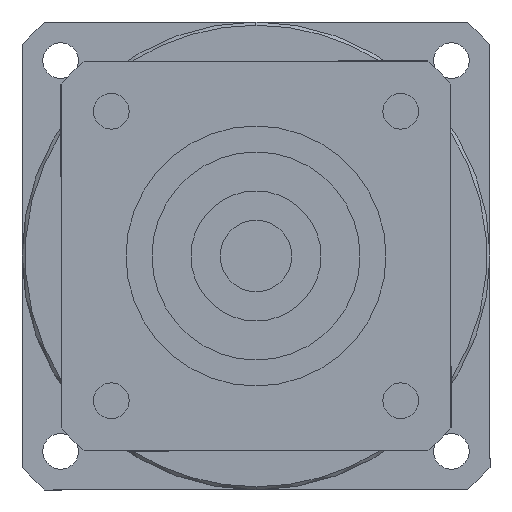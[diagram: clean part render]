
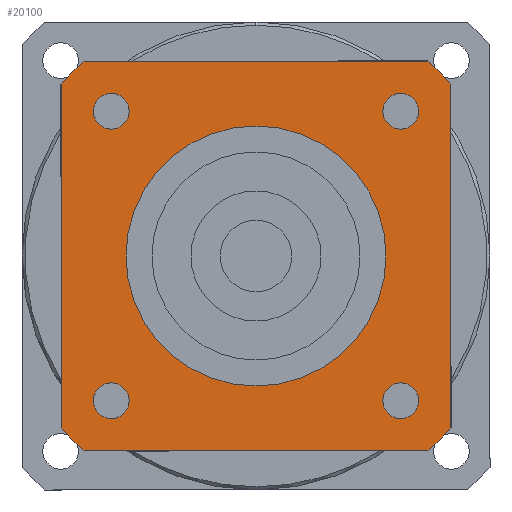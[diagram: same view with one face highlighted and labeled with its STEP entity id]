
A CAD part, left-side view. The second image highlights one B-rep face of the part: STEP entity #20100.
In plain terms, the highlighted planar face has unit normal (-1, 0, 0) as drawn and (0, 0, -1) by its records, which use the part's own axes.
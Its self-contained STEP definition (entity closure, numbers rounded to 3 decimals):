
#15250=CARTESIAN_POINT('',(26.458,-30.,-91.));
#15260=VERTEX_POINT('',#15250);
#15420=CARTESIAN_POINT('',(30.,-26.458,-91.));
#15430=VERTEX_POINT('',#15420);
#15460=CARTESIAN_POINT('',(0.,0.,
-91.));
#15470=DIRECTION('',(0.,0.,1.));
#15480=DIRECTION('',(0.,-1.,0.));
#15490=AXIS2_PLACEMENT_3D('',#15460,#15470,#15480);
#15500=CIRCLE('',#15490,40.);
#15510=EDGE_CURVE('',#15260,#15430,#15500,.T.);
#17890=CARTESIAN_POINT('',(-26.458,-30.,-91.));
#17900=VERTEX_POINT('',#17890);
#17970=CARTESIAN_POINT('',(-30.,-30.,-91.));
#17980=DIRECTION('',(1.,0.,0.));
#17990=VECTOR('',#17980,1000.);
#18000=LINE('',#17970,#17990);
#18010=EDGE_CURVE('',#17900,#15260,#18000,.T.);
#18150=CARTESIAN_POINT('',(-30.,-26.458,-91.));
#18160=VERTEX_POINT('',#18150);
#18210=CARTESIAN_POINT('',(0.,0.,
-91.));
#18220=DIRECTION('',(0.,0.,1.));
#18230=DIRECTION('',(0.,-1.,0.));
#18240=AXIS2_PLACEMENT_3D('',#18210,#18220,#18230);
#18250=CIRCLE('',#18240,40.);
#18260=EDGE_CURVE('',#18160,#17900,#18250,.T.);
#18420=CARTESIAN_POINT('',(26.458,30.,-91.));
#18430=VERTEX_POINT('',#18420);
#18610=CARTESIAN_POINT('',(-26.458,30.,-91.));
#18620=VERTEX_POINT('',#18610);
#18650=CARTESIAN_POINT('',(30.,30.,-91.));
#18660=DIRECTION('',(-1.,0.,0.));
#18670=VECTOR('',#18660,1000.);
#18680=LINE('',#18650,#18670);
#18690=EDGE_CURVE('',#18430,#18620,#18680,.T.);
#18740=CARTESIAN_POINT('',(-30.,30.,-91.));
#18750=DIRECTION('',(0.,0.,1.));
#18760=DIRECTION('',(-1.,0.,0.));
#18770=AXIS2_PLACEMENT_3D('',#18740,#18750,#18760);
#18780=PLANE('',#18770);
#18790=CARTESIAN_POINT('',(22.274,-22.274,-91.));
#18800=DIRECTION('',(0.,0.,-1.));
#18810=DIRECTION('',(1.,0.,0.));
#18820=AXIS2_PLACEMENT_3D('',#18790,#18800,#18810);
#18830=CIRCLE('',#18820,2.75);
#18840=CARTESIAN_POINT('',(25.024,-22.274,-91.));
#18850=VERTEX_POINT('',#18840);
#18860=CARTESIAN_POINT('',(22.274,-25.024,-91.));
#18870=VERTEX_POINT('',#18860);
#18880=EDGE_CURVE('',#18850,#18870,#18830,.T.);
#18890=ORIENTED_EDGE('',*,*,#18880,.F.);
#18900=CARTESIAN_POINT('',(22.274,-19.524,-91.));
#18910=VERTEX_POINT('',#18900);
#18920=EDGE_CURVE('',#18870,#18910,#18830,.T.);
#18930=ORIENTED_EDGE('',*,*,#18920,.F.);
#18940=EDGE_CURVE('',#18910,#18850,#18830,.T.);
#18950=ORIENTED_EDGE('',*,*,#18940,.F.);
#18960=EDGE_LOOP('',(#18950,#18930,#18890));
#18970=FACE_BOUND('',#18960,.T.);
#18980=CARTESIAN_POINT('',(22.274,22.274,-91.));
#18990=DIRECTION('',(0.,0.,-1.));
#19000=DIRECTION('',(0.,1.,0.));
#19010=AXIS2_PLACEMENT_3D('',#18980,#18990,#19000);
#19020=CIRCLE('',#19010,2.75);
#19030=CARTESIAN_POINT('',(22.274,25.024,-91.));
#19040=VERTEX_POINT('',#19030);
#19050=CARTESIAN_POINT('',(25.024,22.274,-91.));
#19060=VERTEX_POINT('',#19050);
#19070=EDGE_CURVE('',#19040,#19060,#19020,.T.);
#19080=ORIENTED_EDGE('',*,*,#19070,.F.);
#19090=CARTESIAN_POINT('',(19.524,22.274,-91.));
#19100=VERTEX_POINT('',#19090);
#19110=EDGE_CURVE('',#19060,#19100,#19020,.T.);
#19120=ORIENTED_EDGE('',*,*,#19110,.F.);
#19130=EDGE_CURVE('',#19100,#19040,#19020,.T.);
#19140=ORIENTED_EDGE('',*,*,#19130,.F.);
#19150=EDGE_LOOP('',(#19140,#19120,#19080));
#19160=FACE_BOUND('',#19150,.T.);
#19170=CARTESIAN_POINT('',(-22.274,22.274,-91.));
#19180=DIRECTION('',(0.,0.,-1.));
#19190=DIRECTION('',(-1.,0.,0.));
#19200=AXIS2_PLACEMENT_3D('',#19170,#19180,#19190);
#19210=CIRCLE('',#19200,2.75);
#19220=CARTESIAN_POINT('',(-25.024,22.274,-91.));
#19230=VERTEX_POINT('',#19220);
#19240=CARTESIAN_POINT('',(-22.274,25.024,-91.));
#19250=VERTEX_POINT('',#19240);
#19260=EDGE_CURVE('',#19230,#19250,#19210,.T.);
#19270=ORIENTED_EDGE('',*,*,#19260,.F.);
#19280=CARTESIAN_POINT('',(-22.274,19.524,-91.));
#19290=VERTEX_POINT('',#19280);
#19300=EDGE_CURVE('',#19250,#19290,#19210,.T.);
#19310=ORIENTED_EDGE('',*,*,#19300,.F.);
#19320=EDGE_CURVE('',#19290,#19230,#19210,.T.);
#19330=ORIENTED_EDGE('',*,*,#19320,.F.);
#19340=EDGE_LOOP('',(#19330,#19310,#19270));
#19350=FACE_BOUND('',#19340,.T.);
#19360=CARTESIAN_POINT('',(-22.274,-22.274,-91.));
#19370=DIRECTION('',(0.,0.,-1.));
#19380=DIRECTION('',(0.,-1.,0.));
#19390=AXIS2_PLACEMENT_3D('',#19360,#19370,#19380);
#19400=CIRCLE('',#19390,2.75);
#19410=CARTESIAN_POINT('',(-22.274,-25.024,-91.));
#19420=VERTEX_POINT('',#19410);
#19430=CARTESIAN_POINT('',(-25.024,-22.274,-91.));
#19440=VERTEX_POINT('',#19430);
#19450=EDGE_CURVE('',#19420,#19440,#19400,.T.);
#19460=ORIENTED_EDGE('',*,*,#19450,.F.);
#19470=CARTESIAN_POINT('',(-19.524,-22.274,-91.));
#19480=VERTEX_POINT('',#19470);
#19490=EDGE_CURVE('',#19440,#19480,#19400,.T.);
#19500=ORIENTED_EDGE('',*,*,#19490,.F.);
#19510=EDGE_CURVE('',#19480,#19420,#19400,.T.);
#19520=ORIENTED_EDGE('',*,*,#19510,.F.);
#19530=EDGE_LOOP('',(#19520,#19500,#19460));
#19540=FACE_BOUND('',#19530,.T.);
#19550=ORIENTED_EDGE('',*,*,#18260,.F.);
#19560=ORIENTED_EDGE('',*,*,#18010,.F.);
#19570=ORIENTED_EDGE('',*,*,#15510,.F.);
#19580=CARTESIAN_POINT('',(30.,-30.,-91.));
#19590=DIRECTION('',(0.,1.,0.));
#19600=VECTOR('',#19590,1000.);
#19610=LINE('',#19580,#19600);
#19620=CARTESIAN_POINT('',(30.,26.458,-91.));
#19630=VERTEX_POINT('',#19620);
#19640=EDGE_CURVE('',#15430,#19630,#19610,.T.);
#19650=ORIENTED_EDGE('',*,*,#19640,.F.);
#19660=CARTESIAN_POINT('',(0.,0.,
-91.));
#19670=DIRECTION('',(0.,0.,1.));
#19680=DIRECTION('',(0.,-1.,0.));
#19690=AXIS2_PLACEMENT_3D('',#19660,#19670,#19680);
#19700=CIRCLE('',#19690,40.);
#19710=EDGE_CURVE('',#19630,#18430,#19700,.T.);
#19720=ORIENTED_EDGE('',*,*,#19710,.F.);
#19730=ORIENTED_EDGE('',*,*,#18690,.F.);
#19740=CARTESIAN_POINT('',(0.,0.,
-91.));
#19750=DIRECTION('',(0.,0.,1.));
#19760=DIRECTION('',(0.,-1.,0.));
#19770=AXIS2_PLACEMENT_3D('',#19740,#19750,#19760);
#19780=CIRCLE('',#19770,40.);
#19790=CARTESIAN_POINT('',(-30.,26.458,-91.));
#19800=VERTEX_POINT('',#19790);
#19810=EDGE_CURVE('',#18620,#19800,#19780,.T.);
#19820=ORIENTED_EDGE('',*,*,#19810,.F.);
#19830=CARTESIAN_POINT('',(-30.,30.,-91.));
#19840=DIRECTION('',(0.,-1.,0.));
#19850=VECTOR('',#19840,1000.);
#19860=LINE('',#19830,#19850);
#19870=EDGE_CURVE('',#19800,#18160,#19860,.T.);
#19880=ORIENTED_EDGE('',*,*,#19870,.F.);
#19890=EDGE_LOOP('',(#19880,#19820,#19730,#19720,#19650,#19570,#19560,
#19550));
#19900=FACE_OUTER_BOUND('',#19890,.T.);
#19910=CARTESIAN_POINT('',(0.,0.,
-91.));
#19920=DIRECTION('',(0.,0.,1.));
#19930=DIRECTION('',(0.,-1.,0.));
#19940=AXIS2_PLACEMENT_3D('',#19910,#19920,#19930);
#19950=CIRCLE('',#19940,20.);
#19960=CARTESIAN_POINT('',(20.,0.,-91.));
#19970=VERTEX_POINT('',#19960);
#19980=CARTESIAN_POINT('',(-20.,0.,-91.));
#19990=VERTEX_POINT('',#19980);
#20000=EDGE_CURVE('',#19970,#19990,#19950,.T.);
#20010=ORIENTED_EDGE('',*,*,#20000,.T.);
#20020=CARTESIAN_POINT('',(0.,-20.,-91.));
#20030=VERTEX_POINT('',#20020);
#20040=EDGE_CURVE('',#20030,#19970,#19950,.T.);
#20050=ORIENTED_EDGE('',*,*,#20040,.T.);
#20060=EDGE_CURVE('',#19990,#20030,#19950,.T.);
#20070=ORIENTED_EDGE('',*,*,#20060,.T.);
#20080=EDGE_LOOP('',(#20070,#20050,#20010));
#20090=FACE_BOUND('',#20080,.T.);
#20100=ADVANCED_FACE('',(#18970,#19160,#19350,#19540,#19900,#20090),
#18780,.F.);
